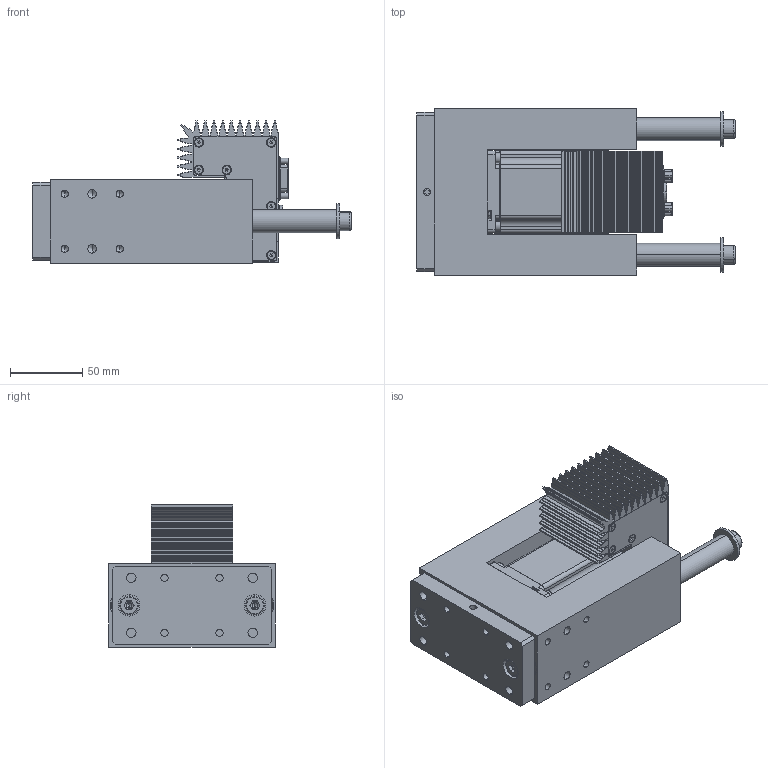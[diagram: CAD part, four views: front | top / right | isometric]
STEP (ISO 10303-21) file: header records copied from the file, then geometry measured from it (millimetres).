
FILE_DESCRIPTION (( 'STEP AP214' ), '1' );
FILE_NAME ('FE23_0004_V00_HUB-050.stp', '2022-03-11T10:46:21', ( '' ), ( '' ), 'SwSTEP 2.0', 'SolidWorks 2020', '' );
FILE_SCHEMA (( 'AUTOMOTIVE_DESIGN' ));
Length unit declared in the file: millimetre
Products named in the file (20): C300_axial_SubD_Mit Verschlusskappe; parallel pin hardened_din_DIN EN 28734 - 3 x 12 - A - St; spring pin slotted_hd_din_DIN EN 28752 - 2.5 x 16 - St; FE23_0004_V00_HUB-050; INA-FAG_KH16-PP; FE00_0002_V00_HUB-050; FE00_0004_V00; plain washer large_din_Washer DIN 9021 - 8.4; FE00_0006_V00; FE00_0001_V00; socket head cap screw_din_DIN 912 M8 x 16 --- 16N; socket thin pilot cap screw_din_DIN 6912 - M8 x 20 --- 13N; socket set screw cone point_din_DIN 914 - M6 x 12-N; socket head cap screw_din_DIN 912 M4 x 16 --- 16N; FE00_0003_V00_HUB-050; FE23_0001_V00_HUB-050; FE00_0005_V00; socket set screw cone point_din_DIN 914 - M4 x 5-N; INA_Axial-Rillenkugellager-51104_31_104; Kollmorgen_NEMA23_CTP22NSF3INSS02_mit Gewinde
Assembly tree (33 placements, depth 3):
  FE23_0004_V00_HUB-050
    FE23_0001_V00_HUB-050
      FE00_0002_V00_HUB-050
      FE00_0003_V00_HUB-050  x2
      FE00_0001_V00
      FE00_0004_V00
      FE00_0005_V00
      FE00_0006_V00
      INA-FAG_KH16-PP  x4
      socket thin pilot cap screw_din_DIN 6912 - M8 x 20 --- 13N  x2
      INA_Axial-Rillenkugellager-51104_31_104  x2
      parallel pin hardened_din_DIN EN 28734 - 3 x 12 - A - St  x3
      socket set screw cone point_din_DIN 914 - M4 x 5-N
      spring pin slotted_hd_din_DIN EN 28752 - 2.5 x 16 - St
      socket set screw cone point_din_DIN 914 - M6 x 12-N  x2
      plain washer large_din_Washer DIN 9021 - 8.4  x2
      socket head cap screw_din_DIN 912 M8 x 16 --- 16N  x2
    Kollmorgen_NEMA23_CTP22NSF3INSS02_mit Gewinde
    C300_axial_SubD_Mit Verschlusskappe
    socket head cap screw_din_DIN 912 M4 x 16 --- 16N  x4
Bounding box: 220 x 115 x 98.5 mm (x, y, z)
Volume: 1136222.8 mm3; surface area: 294433.6 mm2
Topology: 63 solids, 64 shells, 2430 faces, 5971 edges, 3612 vertices
Faces by surface type: plane 1058, cylinder 711, cone 331, bspline 188, torus 142
Entity records: 78908 total; most frequent: CARTESIAN_POINT 17044, DIRECTION 9924, ORIENTED_EDGE 9388, EDGE_CURVE 4694, AXIS2_PLACEMENT_3D 3625, VERTEX_POINT 2969, LINE 2674, VECTOR 2674
